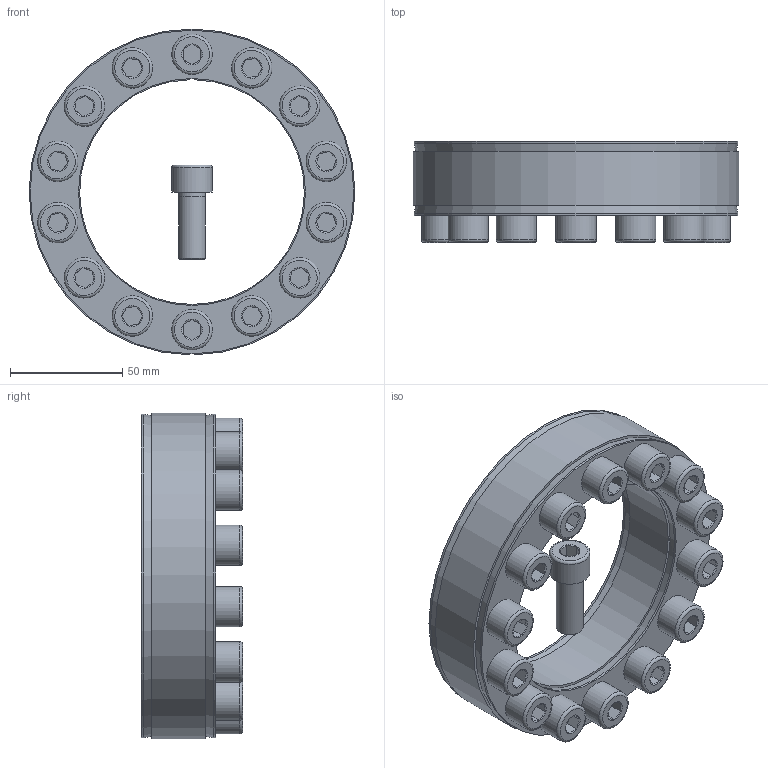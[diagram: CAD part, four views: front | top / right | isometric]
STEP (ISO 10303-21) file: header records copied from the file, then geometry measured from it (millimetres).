
FILE_DESCRIPTION( ( 'Unknown' ), '1' );
FILE_NAME( 'C:/Dokumente und Einstellungen/Sven/Desktop/homepage/cad - homepage/KBS40/KBS 40 - 100 x 145.stp', 'Unknown', ( 'Unknown' ), ( 'Unknown' ), 'XStep 1.0', 'Unknown', ' ' );
FILE_SCHEMA( ( 'automotive_design' ) );
Length unit declared in the file: millimetre
Products named in the file (16): Assem1; KBS 40 100x145; ISO 4762 M12x30; ISO 4762 M12x30-oa0; ISO 4762 M12x30-oa1; ISO 4762 M12x30-oa2; ISO 4762 M12x30-oa3; ISO 4762 M12x30-oa4; ISO 4762 M12x30-oa5; ISO 4762 M12x30-oa6; ISO 4762 M12x30-oa7; ISO 4762 M12x30-oa8; ISO 4762 M12x30-oa9; ISO 4762 M12x30-oa10; ISO 4762 M12x30-oa11; ISO 4762 M12x30-oa12
Bounding box: 145 x 45 x 144.99 mm (x, y, z)
Volume: 626516.5 mm3; surface area: 185778.6 mm2
Topology: 30 solids, 30 shells, 788 faces, 1456 edges, 840 vertices
Faces by surface type: plane 376, cone 204, cylinder 152, torus 56
Full cylindrical faces by diameter (mm): 11 x28, 12 x84, 18 x28, 101 x4, 144 x4
Entity records: 9689 total; most frequent: CARTESIAN_POINT 2022, DIRECTION 1600, ORIENTED_EDGE 1156, AXIS2_PLACEMENT_3D 696, EDGE_LOOP 600, EDGE_CURVE 578, FACE_OUTER_BOUND 496, ADVANCED_FACE 394
